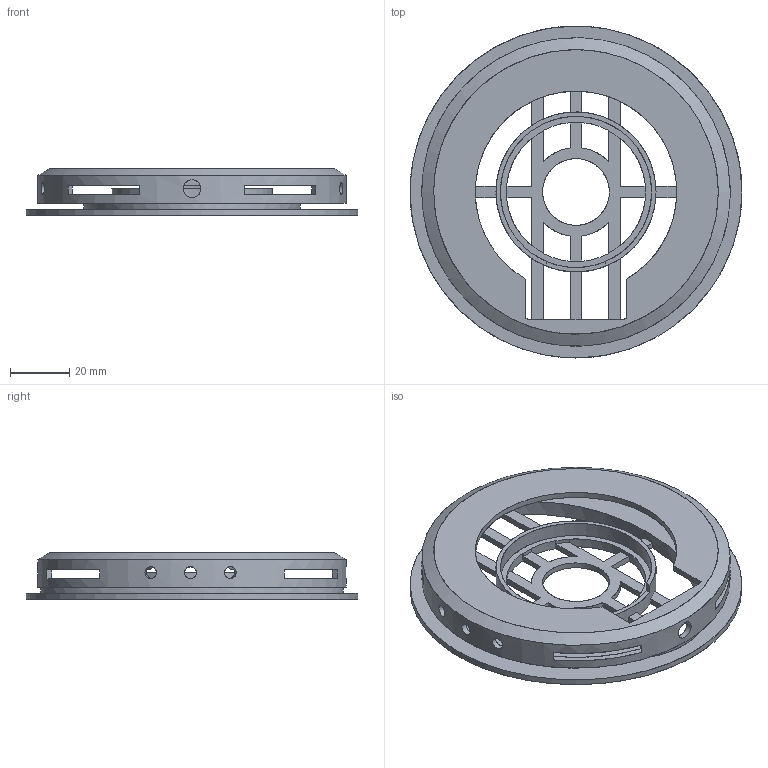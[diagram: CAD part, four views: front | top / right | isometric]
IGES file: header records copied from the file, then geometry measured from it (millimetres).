
Global section: file name: C:\Users\filip\Desktop\Open-Omega-main\Open-Omega-main\omega_universal_cup.igs; native system: Rhinoceros ( Aug  5 2025 ); preprocessor: Trout Lake IGES 012 Aug  5 2025; date: 250925.063932; units: millimetre
Bounding box: 112 x 112 x 15.75 mm (x, y, z)
Surface area: 38039.6 mm2 (no closed solid volume)
Topology: 0 solids, 0 shells, 124 faces, 1179 edges, 1161 vertices
Faces by surface type: bspline 124
